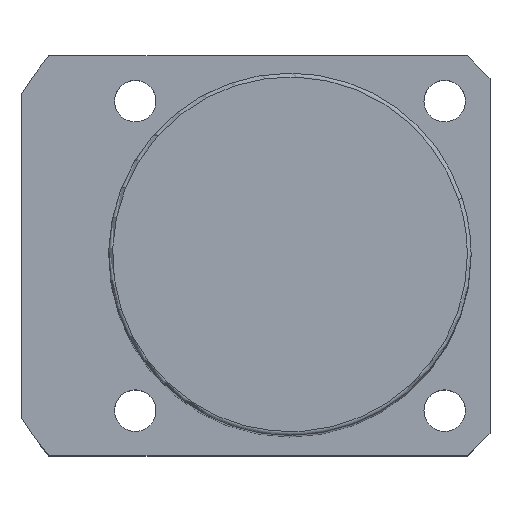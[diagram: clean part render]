
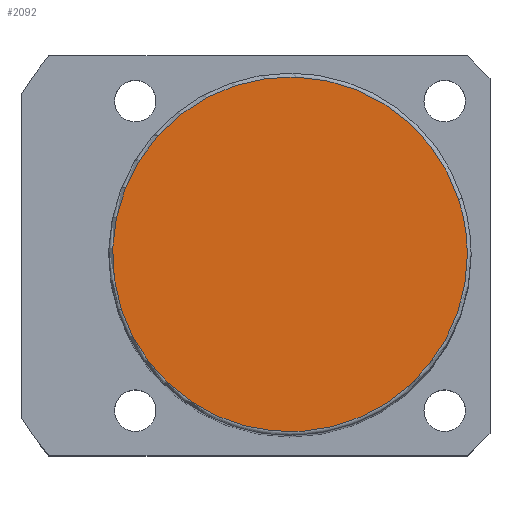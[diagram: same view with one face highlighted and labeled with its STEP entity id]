
A CAD part, top view. The second image highlights one B-rep face of the part: STEP entity #2092.
In plain terms, the highlighted planar face has unit normal (0, 0, 1).
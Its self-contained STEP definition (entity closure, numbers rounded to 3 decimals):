
#2058=CARTESIAN_POINT('',(23.5,0.0,129.0));
#2059=VERTEX_POINT('',#2058);
#2060=CARTESIAN_POINT('',(22.35,7.262,129.0));
#2061=VERTEX_POINT('',#2060);
#2062=CARTESIAN_POINT('',(0.0,0.0,129.0));
#2063=DIRECTION('',(0.0,0.0,1.0));
#2064=DIRECTION('',(1.0,0.0,0.0));
#2065=AXIS2_PLACEMENT_3D('',#2062,#2063,#2064);
#2066=CIRCLE('',#2065,23.5);
#2067=EDGE_CURVE('no 2096',#2059,#2061,#2066,.T.);
#2068=ORIENTED_EDGE('',*,*,#2067,.T.);
#2069=CARTESIAN_POINT('',(-22.35,-7.262,129.0));
#2070=VERTEX_POINT('',#2069);
#2071=CARTESIAN_POINT('',(0.0,0.0,129.0));
#2072=DIRECTION('',(0.0,0.0,1.0));
#2073=DIRECTION('',(1.0,0.0,0.0));
#2074=AXIS2_PLACEMENT_3D('',#2071,#2072,#2073);
#2075=CIRCLE('',#2074,23.5);
#2076=EDGE_CURVE('no 2102',#2061,#2070,#2075,.T.);
#2077=ORIENTED_EDGE('',*,*,#2076,.T.);
#2078=CARTESIAN_POINT('',(0.0,0.0,129.0));
#2079=DIRECTION('',(0.0,0.0,1.0));
#2080=DIRECTION('',(1.0,0.0,0.0));
#2081=AXIS2_PLACEMENT_3D('',#2078,#2079,#2080);
#2082=CIRCLE('',#2081,23.5);
#2083=EDGE_CURVE('no 2106',#2070,#2059,#2082,.T.);
#2084=ORIENTED_EDGE('',*,*,#2083,.T.);
#2085=EDGE_LOOP('',(#2068,#2077,#2084));
#2086=FACE_OUTER_BOUND('',#2085,.T.);
#2087=CARTESIAN_POINT('',(0.0,0.0,129.0));
#2088=DIRECTION('',(0.0,0.0,1.0));
#2089=DIRECTION('',(1.0,0.0,0.0));
#2090=AXIS2_PLACEMENT_3D('',#2087,#2088,#2089);
#2091=PLANE('',#2090);
#2092=ADVANCED_FACE('no 2087',(#2086),#2091,.T.);
